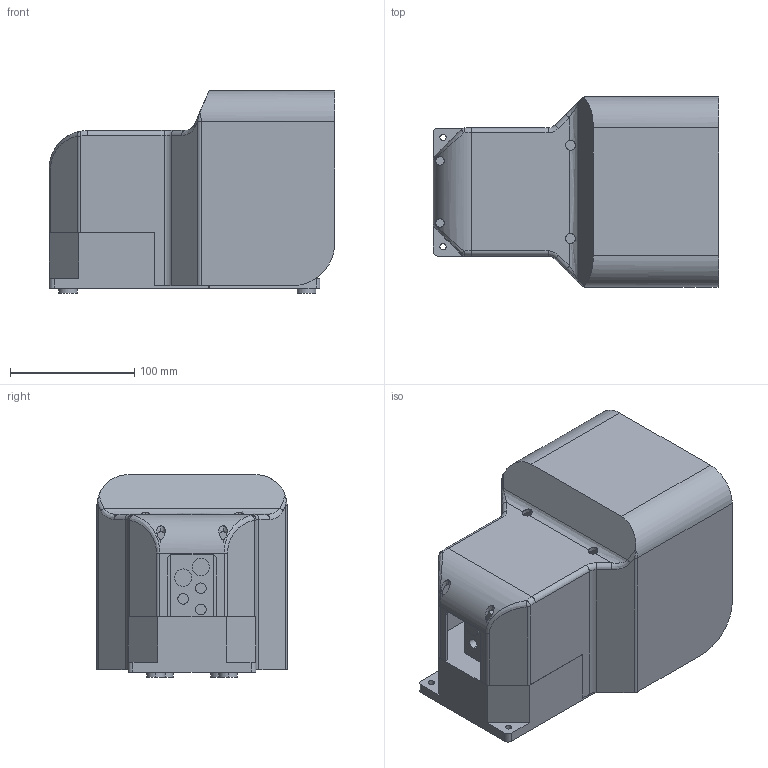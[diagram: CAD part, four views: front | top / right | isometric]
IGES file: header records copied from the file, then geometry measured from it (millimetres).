
Global section: file name: No Iges File Name specified; native system: AutoDesk Inventor R11.0; preprocessor: AutoDesk Inventor Iges Exporter R11.0; author: No Author specified; organization: No Organization specified; date: 20061219.114008; units: millimetre
Bounding box: 230 x 153 x 163 mm (x, y, z)
Volume: 1037552.1 mm3; surface area: 296711 mm2
Topology: 2 solids, 4 shells, 216 faces, 566 edges, 364 vertices
Faces by surface type: plane 98, cylinder 44, bspline 38, revolution 30, torus 4, sphere 2
